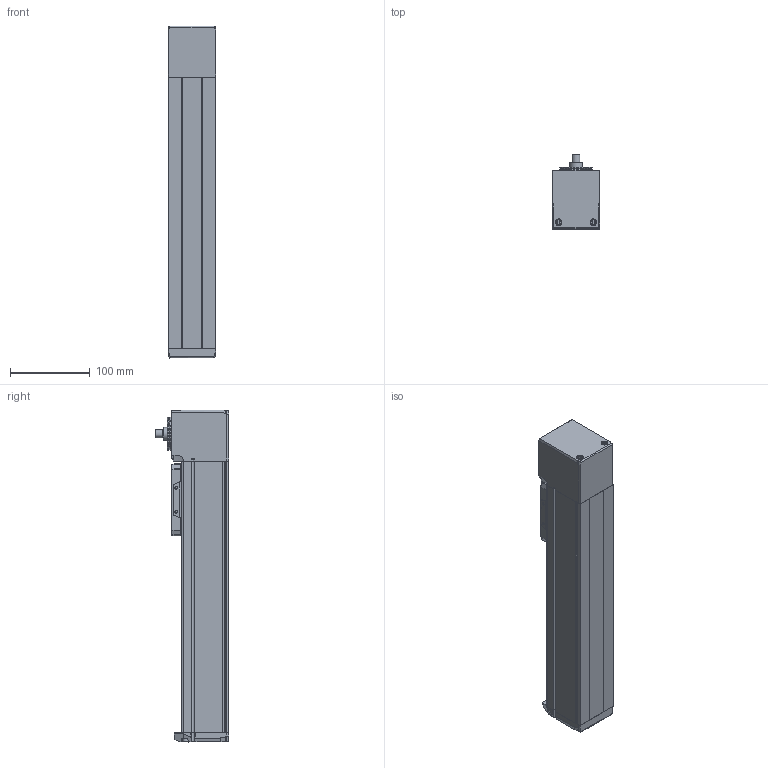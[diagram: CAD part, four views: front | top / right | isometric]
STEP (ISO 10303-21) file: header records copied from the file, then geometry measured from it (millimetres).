
FILE_DESCRIPTION(/* description */ ('STEP AP214'),/* implementation_level */ '2;1');
FILE_NAME(/* name */ 'MGTB 60 200(0)',/* time_stamp */ '2023-04-17T13:38:39+02:00',/* author */ ('License CC BY-ND 4.0'),/* organization */ ('CADENAS'),/* preprocessor_version */ 'ST-DEVELOPER v19.3',/* originating_system */ 'PARTsolutions',/* authorisation */ ' ');
FILE_SCHEMA (('AUTOMOTIVE_DESIGN {1 0 10303 214 3 1 1}'));
Length unit declared in the file: millimetre
Products named in the file (6): MGTB 60 200(0); MGTB 60 200_protection_strip; MGTB 60_carriage; MGTB 60_end_block; MGTB 60 200_profile; MGTB 60_drive_block
Assembly tree (5 placements, depth 2):
  MGTB 60 200(0)
    MGTB 60 200_protection_strip
    MGTB 60_carriage
    MGTB 60_end_block
    MGTB 60 200_profile
    MGTB 60_drive_block
Bounding box: 60 x 92.5 x 415.01 mm (x, y, z)
Volume: 1543858.8 mm3; surface area: 195937.1 mm2
Topology: 5 solids, 5 shells, 696 faces, 1771 edges, 1140 vertices
Faces by surface type: plane 351, cylinder 156, cone 94, bspline 68, torus 25, sphere 2
Full cylindrical faces by diameter (mm): 2 x1, 2.459 x4, 3.242 x6, 4 x12, 4.134 x8, 4.2 x2, 4.8 x2, 5 x2, 5.5 x4, 7 x6, 8 x4, 10 x1, 11 x3, 16 x1, 17 x1, 30 x1, 35 x1, 42 x2
Entity records: 25037 total; most frequent: CARTESIAN_POINT 4184, DIRECTION 3411, ORIENTED_EDGE 3232, EDGE_CURVE 1616, AXIS2_PLACEMENT_3D 1219, VERTEX_POINT 1120, LINE 973, VECTOR 973
